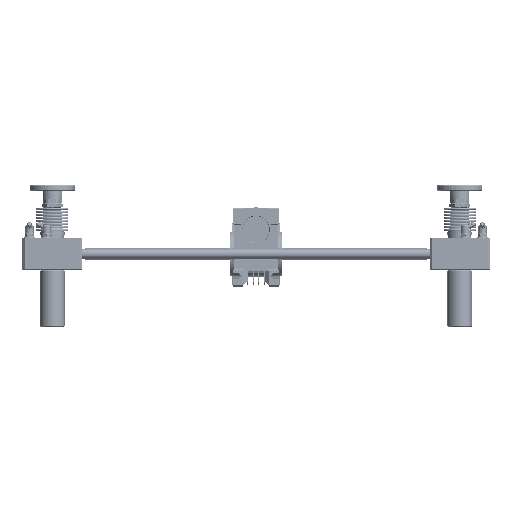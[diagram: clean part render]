
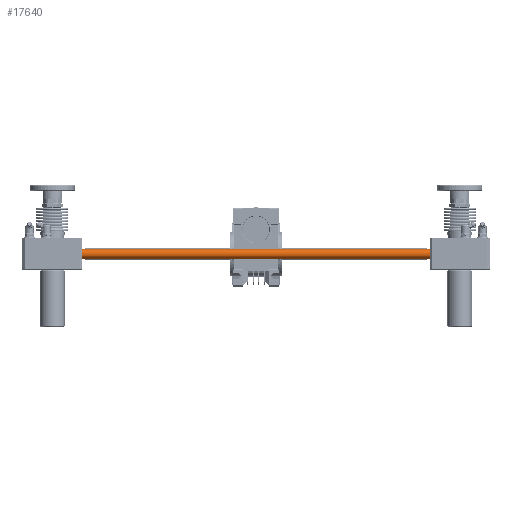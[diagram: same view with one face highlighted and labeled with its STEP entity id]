
A CAD part, left-side view. The second image highlights one B-rep face of the part: STEP entity #17640.
In plain terms, the highlighted cylindrical face has radius 6 mm (diameter 12 mm), a full revolution.
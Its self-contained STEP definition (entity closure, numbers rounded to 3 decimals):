
#17640=ADVANCED_FACE('',(#40112,#40113),#40114,.T.);
#40112=FACE_OUTER_BOUND('',#62927,.T.);
#40113=FACE_OUTER_BOUND('',#62928,.T.);
#40114=CYLINDRICAL_SURFACE('',#62929,6.0);
#62927=EDGE_LOOP('',(#154483));
#62928=EDGE_LOOP('',(#154484));
#62929=AXIS2_PLACEMENT_3D('',#154485,#154486,#154487);
#154483=ORIENTED_EDGE('',*,*,#186013,.T.);
#154484=ORIENTED_EDGE('',*,*,#186010,.T.);
#154485=CARTESIAN_POINT('',(0.0,0.0,515.0));
#154486=DIRECTION('',(0.0,0.0,-1.0));
#154487=DIRECTION('',(-1.0,0.0,0.0));
#186010=EDGE_CURVE('',#239893,#239893,#239894,.F.);
#186013=EDGE_CURVE('',#239899,#239899,#239900,.T.);
#239893=VERTEX_POINT('',#333666);
#239894=CIRCLE('',#333667,6.0);
#239899=VERTEX_POINT('',#333672);
#239900=CIRCLE('',#333673,6.0);
#333666=CARTESIAN_POINT('',(6.0,0.0,514.5));
#333667=AXIS2_PLACEMENT_3D('',#368349,#368350,#368351);
#333672=CARTESIAN_POINT('',(6.0,0.0,0.5));
#333673=AXIS2_PLACEMENT_3D('',#368358,#368359,#368360);
#368349=CARTESIAN_POINT('',(0.0,0.0,514.5));
#368350=DIRECTION('',(0.0,0.0,1.0));
#368351=DIRECTION('',(1.0,0.0,0.0));
#368358=CARTESIAN_POINT('',(0.0,0.0,0.5));
#368359=DIRECTION('',(0.0,0.0,1.0));
#368360=DIRECTION('',(1.0,0.0,0.0));
